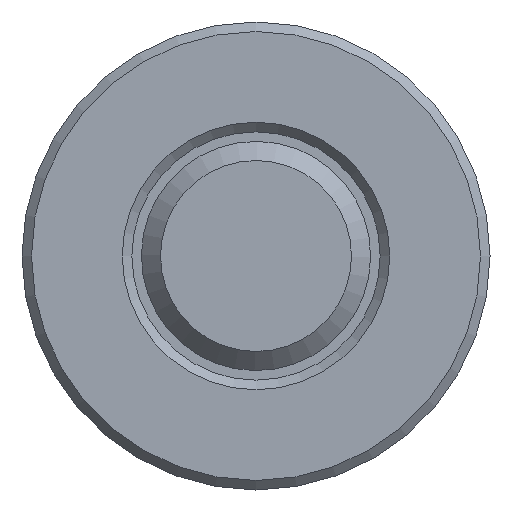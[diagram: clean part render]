
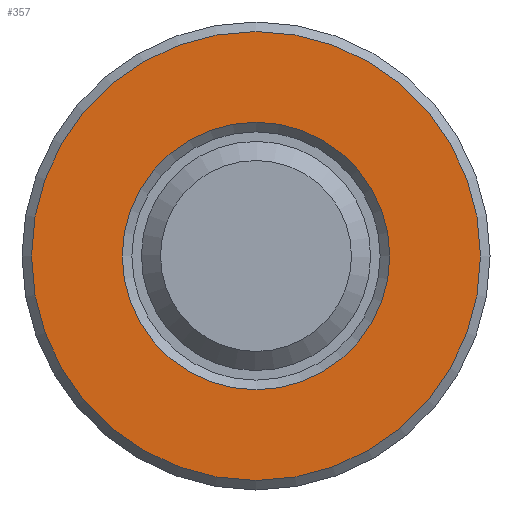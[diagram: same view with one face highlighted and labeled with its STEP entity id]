
A CAD part, front view. The second image highlights one B-rep face of the part: STEP entity #357.
In plain terms, the highlighted planar face has unit normal (0, -1, 0).
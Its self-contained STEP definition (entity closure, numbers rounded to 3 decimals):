
#37=FACE_BOUND('',#80,.T.);
#43=PLANE('',#447);
#54=FACE_OUTER_BOUND('',#79,.T.);
#79=EDGE_LOOP('',(#265));
#80=EDGE_LOOP('',(#266));
#141=CIRCLE('',#444,14.);
#144=CIRCLE('',#448,23.5);
#173=VERTEX_POINT('',#650);
#176=VERTEX_POINT('',#658);
#207=EDGE_CURVE('',#173,#173,#141,.T.);
#211=EDGE_CURVE('',#176,#176,#144,.T.);
#265=ORIENTED_EDGE('',*,*,#211,.F.);
#266=ORIENTED_EDGE('',*,*,#207,.F.);
#357=ADVANCED_FACE('',(#54,#37),#43,.T.);
#444=AXIS2_PLACEMENT_3D('',#651,#518,#519);
#447=AXIS2_PLACEMENT_3D('',#657,#525,#526);
#448=AXIS2_PLACEMENT_3D('',#659,#527,#528);
#518=DIRECTION('center_axis',(0.,-1.,0.));
#519=DIRECTION('ref_axis',(0.,0.,-1.));
#525=DIRECTION('center_axis',(0.,-1.,0.));
#526=DIRECTION('ref_axis',(0.,0.,-1.));
#527=DIRECTION('center_axis',(0.,1.,0.));
#528=DIRECTION('ref_axis',(0.,0.,-1.));
#650=CARTESIAN_POINT('',(0.,0.,14.));
#651=CARTESIAN_POINT('Origin',(0.,0.,0.));
#657=CARTESIAN_POINT('Origin',(0.,0.,24.5));
#658=CARTESIAN_POINT('',(0.,0.,23.5));
#659=CARTESIAN_POINT('Origin',(0.,0.,0.));
